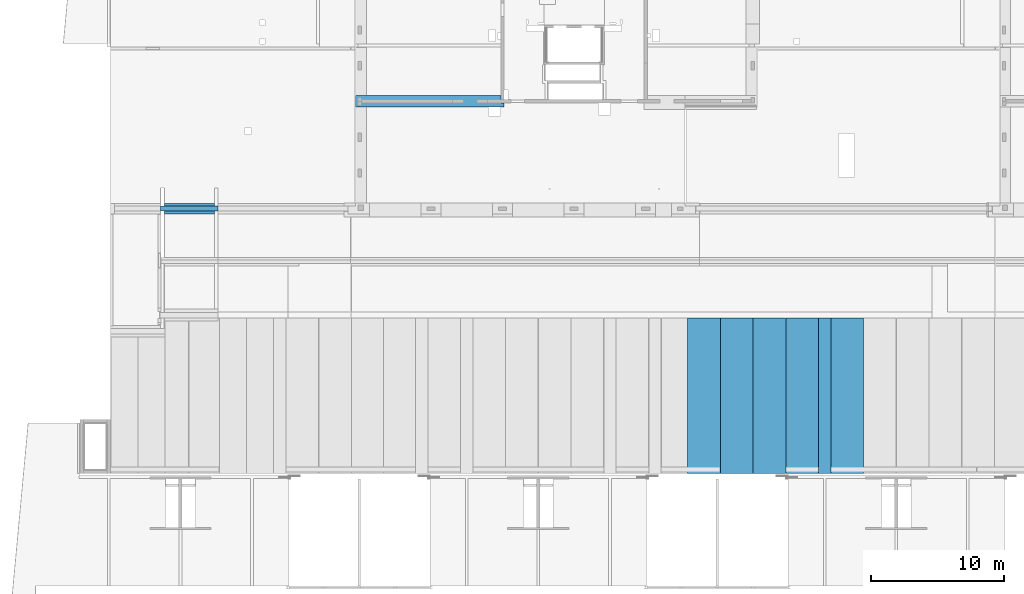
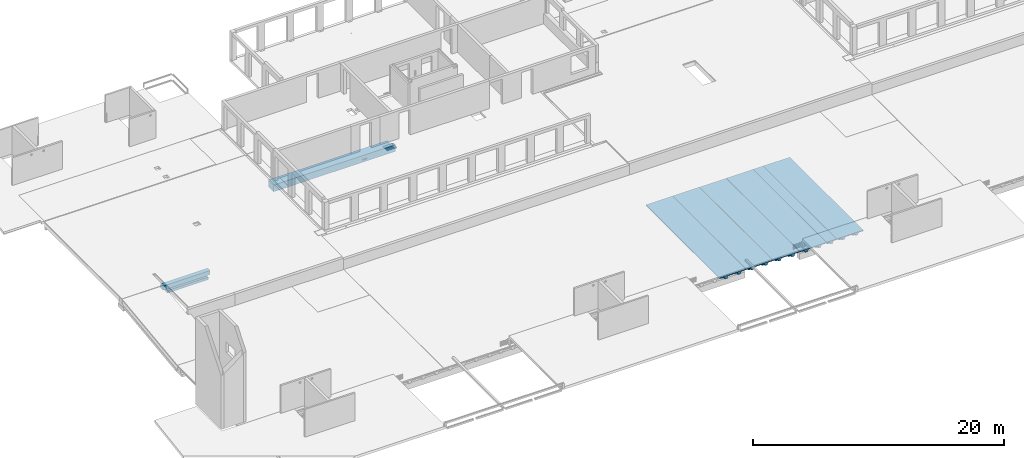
# One storey, part 28 of 36: 8 beams.
"""IFC2X3 building model written with IfcOpenShell, lengths in millimetres."""

import ifcopenshell
import ifcopenshell.guid

model = None  # the IFC model being written
_history = None  # IfcOwnerHistory: only IFC2X3 demands one
_inside = {}  # id of a spatial element -> (the spatial element, [elements in it])
_under = {}  # id of a project, library or spatial element -> (it, [spatial elements below it])
_declared = {}  # id of a project -> (the project, [libraries it declares])
_typed = {}  # id of a type object -> (the type object, [elements of that type])
_made_of = {}  # id of a material, layer set ... -> (it, [elements and type objects made of it])


def new_model(schema):
    """Start an empty IFC model of exactly this schema.

    Asked for "IFC4X3", IfcOpenShell would pick the latest addendum, in which some entities
    have other attributes; the version numbers below select the first issue.
    IFC2X3 requires an IfcOwnerHistory on every rooted entity: one is made here for all.
    """
    global model, _history
    if schema == "IFC4X3":
        model = ifcopenshell.file(schema_version=(4, 3, 0, 0))
    else:
        model = ifcopenshell.file(schema=schema)
    _inside.clear()
    _under.clear()
    _declared.clear()
    _typed.clear()
    _made_of.clear()
    _history = None
    if model.schema == "IFC2X3":
        org = make("IfcOrganization", Name="unknown")
        user = make(
            "IfcPersonAndOrganization",
            ThePerson=make("IfcPerson", FamilyName="unknown"),
            TheOrganization=org,
        )
        app = make(
            "IfcApplication",
            ApplicationDeveloper=org,
            Version="unknown",
            ApplicationFullName="unknown",
            ApplicationIdentifier="unknown",
        )
        _history = make(
            "IfcOwnerHistory",
            OwningUser=user,
            OwningApplication=app,
            ChangeAction="ADDED",
            CreationDate=0,
        )
    return model


def make(cls, **values):
    """One entity of the class cls with the attributes given. An attribute that is None is left unset."""
    return model.create_entity(
        cls, **{name: value for name, value in values.items() if value is not None}
    )


def entity(cls, *values):
    """Any entity or typed value of the class cls, its attributes in the order of the schema. None: left unset."""
    e = model.create_entity(cls)
    for i, value in enumerate(values):
        if value is not None:
            e[i] = value
    return e


def rooted(cls, **values):
    """An entity with a GlobalId (a new one), such as an element, a storey or a relation."""
    return make(cls, GlobalId=ifcopenshell.guid.new(), OwnerHistory=_history, **values)


def si_unit(unit_type, name, prefix=None):
    """IfcSIUnit, for example si_unit("LENGTHUNIT", "METRE", prefix="MILLI")."""
    return make("IfcSIUnit", UnitType=unit_type, Prefix=prefix, Name=name)


def converted_unit(unit_type, name, factor, base, dimensions=None, offset=None):
    """IfcConversionBasedUnit, such as the inch: factor (a typed value) times the base unit."""
    return make(
        "IfcConversionBasedUnit"
        if offset is None
        else "IfcConversionBasedUnitWithOffset",
        ConversionOffset=offset,
        Dimensions=None
        if dimensions is None
        else entity("IfcDimensionalExponents", *dimensions),
        UnitType=unit_type,
        Name=name,
        ConversionFactor=make(
            "IfcMeasureWithUnit", ValueComponent=factor, UnitComponent=base
        ),
    )


def derived_unit(unit_type, elements):
    """IfcDerivedUnit: a product of units, each with its exponent."""
    return make(
        "IfcDerivedUnit",
        Elements=[
            make("IfcDerivedUnitElement", Unit=unit, Exponent=power)
            for unit, power in elements
        ],
        UnitType=unit_type,
    )


def assignment(units):
    """IfcUnitAssignment: the units of a project."""
    return None if units is None else make("IfcUnitAssignment", Units=units)


def point(xyz):
    """IfcCartesianPoint."""
    return None if xyz is None else make("IfcCartesianPoint", Coordinates=xyz)


def direction(xyz):
    """IfcDirection."""
    return None if xyz is None else make("IfcDirection", DirectionRatios=xyz)


def frame(location, z_axis=None, x_axis=None):
    """IfcAxis2Placement3D, a coordinate frame: its origin and axes. An axis left out is left unset."""
    return make(
        "IfcAxis2Placement3D",
        Location=point(location),
        Axis=direction(z_axis),
        RefDirection=direction(x_axis),
    )


def origin():
    """The frame at (0, 0, 0) with its axes left unset."""
    return frame((0.0, 0.0, 0.0))


def place(relative_to, where):
    """IfcLocalPlacement: puts the frame where relative to a parent placement (None: the world)."""
    return make(
        "IfcLocalPlacement", PlacementRelTo=relative_to, RelativePlacement=where
    )


def context(
    kind, dimensions, precision=None, world=None, true_north=None, identifier=None
):
    """IfcGeometricRepresentationContext, for example the 3D "Model" context."""
    return make(
        "IfcGeometricRepresentationContext",
        ContextIdentifier=identifier,
        ContextType=kind,
        CoordinateSpaceDimension=dimensions,
        Precision=precision,
        WorldCoordinateSystem=world,
        TrueNorth=true_north,
    )


def subcontext(parent, identifier, kind, view, scale=None):
    """IfcGeometricRepresentationSubContext, for example "Body" below "Model"."""
    return make(
        "IfcGeometricRepresentationSubContext",
        ContextIdentifier=identifier,
        ContextType=kind,
        ParentContext=parent,
        TargetScale=scale,
        TargetView=view,
    )


def project(units=None, contexts=None):
    """IfcProject with its units and contexts."""
    return rooted(
        "IfcProject",
        Name="project",
        RepresentationContexts=contexts,
        UnitsInContext=assignment(units),
    )


def spatial(cls, under=None, at=None, **own):
    """A site, building, storey or space (cls), placed at a placement, below another one or the project."""
    s = rooted(cls, ObjectPlacement=at, **own)
    if under is not None:
        _under.setdefault(under.id(), (under, []))[1].append(s)
    return s


def faces_of(points, faces, orient=None, outer=None):
    """IfcFace entities. A face is a list of loops; a loop is a list of indices into points, from 0.

    orient and outer hold one flag for each loop. By default every Orientation is true, the
    first loop of a face is its IfcFaceOuterBound and the others are IfcFaceBound.
    """
    made = []
    for i, loops in enumerate(faces):
        bounds = []
        for j, loop in enumerate(loops):
            is_outer = j == 0 if outer is None else outer[i][j]
            bounds.append(
                make(
                    "IfcFaceOuterBound" if is_outer else "IfcFaceBound",
                    Bound=make("IfcPolyLoop", Polygon=[points[k] for k in loop]),
                    Orientation=True if orient is None else orient[i][j],
                )
            )
        made.append(make("IfcFace", Bounds=bounds))
    return made


def faceted_brep(points, faces, orient=None, outer=None, voids=None):
    """IfcFacetedBrep: a solid bounded by flat faces; with voids (closed shells), ...WithVoids."""
    shared = [point(p) for p in points]
    hull = make("IfcClosedShell", CfsFaces=faces_of(shared, faces, orient, outer))
    if voids is None:
        return make("IfcFacetedBrep", Outer=hull)
    return make(
        "IfcFacetedBrepWithVoids",
        Outer=hull,
        Voids=[
            make(cls, CfsFaces=faces_of(shared, fs, o, b)) for cls, fs, o, b in voids
        ],
    )


def shape(context_of_items, identifier, shape_type, items):
    """IfcShapeRepresentation: the items that make up one representation, for example the "Body"."""
    return make(
        "IfcShapeRepresentation",
        ContextOfItems=context_of_items,
        RepresentationIdentifier=identifier,
        RepresentationType=shape_type,
        Items=items,
    )


def material(Name=None, Category=None):
    """IfcMaterial."""
    return make("IfcMaterial", Name=Name, Category=Category)


def made_of(thing, what):
    """Note that an element or type object is made of a material, layer set ...; save() writes the relation."""
    if what is not None:
        _made_of.setdefault(what.id(), (what, []))[1].append(thing)
    return thing


def type_object(cls, material=None, **own):
    """A type object (cls), such as IfcWallType, which elements share."""
    return made_of(rooted(cls, **own), material)


def element(
    cls,
    number,
    at=None,
    inside=None,
    cuts=None,
    type_object=None,
    material=None,
    context=None,
    identifier="Body",
    shape_type=None,
    held_by="IfcProductDefinitionShape",
    body=None,
    shapes=None,
    **own,
):
    """One element of the class cls, such as IfcWall. Its Tag is "e" and its number.

    at: its placement. inside: the storey or other place that contains it. cuts: it is an
    opening in that element (IfcRelVoidsElement). A single representation is given by context,
    identifier, shape_type and body (its items); several are given by shapes. held_by: the class
    of the entity that holds the representations. save() writes the other relations.
    """
    e = rooted(cls, Tag="e%d" % number, ObjectPlacement=at, **own)
    if body is not None:
        shapes = [shape(context, identifier, shape_type, body)]
    if shapes is not None:
        e.Representation = make(held_by, Representations=shapes)
    if inside is not None:
        _inside.setdefault(inside.id(), (inside, []))[1].append(e)
    if cuts is not None:
        rooted(
            "IfcRelVoidsElement", RelatingBuildingElement=cuts, RelatedOpeningElement=e
        )
    if type_object is not None:
        _typed.setdefault(type_object.id(), (type_object, []))[1].append(e)
    return made_of(e, material)


def aggregate(whole, parts):
    """IfcRelAggregates: a whole, such as a stair, and the parts it consists of."""
    return rooted("IfcRelAggregates", RelatingObject=whole, RelatedObjects=parts)


def save(model, path):
    """Write the relations noted so far, then the file.

    IfcRelAggregates (storeys below a building ...), IfcRelContainedInSpatialStructure (elements
    in a storey), IfcRelDefinesByType, IfcRelAssociatesMaterial and IfcRelDeclares: one each for
    every whole, place, type object, material and project.
    """
    for whole, parts in _under.values():
        aggregate(whole, parts)
    for where, things in _inside.values():
        rooted(
            "IfcRelContainedInSpatialStructure",
            RelatedElements=things,
            RelatingStructure=where,
        )
    for kind, things in _typed.values():
        rooted("IfcRelDefinesByType", RelatedObjects=things, RelatingType=kind)
    for what, things in _made_of.values():
        rooted("IfcRelAssociatesMaterial", RelatedObjects=things, RelatingMaterial=what)
    for by, libraries in _declared.values():
        rooted("IfcRelDeclares", RelatingContext=by, RelatedDefinitions=libraries)
    model.write(path)


model = new_model("IFC2X3")

# Units and contexts
model_context = context("Model", 3, precision=0.01, world=origin(), true_north=direction((6.12303176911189e-17, 1.0)))
body_context = subcontext(model_context, "Body", "Model", "MODEL_VIEW")
ifc_project = project(units=[si_unit("LENGTHUNIT", "METRE", prefix="MILLI"), si_unit("AREAUNIT", "SQUARE_METRE"), si_unit("VOLUMEUNIT", "CUBIC_METRE"), converted_unit("PLANEANGLEUNIT", "DEGREE", entity("IfcRatioMeasure", 0.0174532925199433), si_unit("PLANEANGLEUNIT", "RADIAN"), dimensions=[0, 0, 0, 0, 0, 0, 0]), si_unit("MASSUNIT", "GRAM", prefix="KILO"), derived_unit("MASSDENSITYUNIT", [(si_unit("MASSUNIT", "GRAM", prefix="KILO"), 1), (si_unit("LENGTHUNIT", "METRE"), -3)]), si_unit("TIMEUNIT", "SECOND"), si_unit("FREQUENCYUNIT", "HERTZ"), si_unit("THERMODYNAMICTEMPERATUREUNIT", "DEGREE_CELSIUS"), derived_unit("THERMALTRANSMITTANCEUNIT", [(si_unit("MASSUNIT", "GRAM", prefix="KILO"), 1), (si_unit("THERMODYNAMICTEMPERATUREUNIT", "KELVIN"), -1), (si_unit("TIMEUNIT", "SECOND"), -3)]), derived_unit("VOLUMETRICFLOWRATEUNIT", [(si_unit("LENGTHUNIT", "METRE"), 3), (si_unit("TIMEUNIT", "SECOND"), -1)]), si_unit("ELECTRICCURRENTUNIT", "AMPERE"), si_unit("ELECTRICVOLTAGEUNIT", "VOLT"), si_unit("POWERUNIT", "WATT"), si_unit("FORCEUNIT", "NEWTON", prefix="KILO"), si_unit("ILLUMINANCEUNIT", "LUX"), si_unit("LUMINOUSFLUXUNIT", "LUMEN"), si_unit("LUMINOUSINTENSITYUNIT", "CANDELA"), derived_unit("USERDEFINED", [(si_unit("MASSUNIT", "GRAM", prefix="KILO"), -1), (si_unit("LENGTHUNIT", "METRE"), -2), (si_unit("TIMEUNIT", "SECOND"), 3), (si_unit("LUMINOUSFLUXUNIT", "LUMEN"), 1)]), derived_unit("LINEARVELOCITYUNIT", [(si_unit("LENGTHUNIT", "METRE"), 1), (si_unit("TIMEUNIT", "SECOND"), -1)]), si_unit("PRESSUREUNIT", "PASCAL"), derived_unit("USERDEFINED", [(si_unit("LENGTHUNIT", "METRE"), -2), (si_unit("MASSUNIT", "GRAM", prefix="KILO"), 1), (si_unit("TIMEUNIT", "SECOND"), -2)])], contexts=[model_context])

# Site, building, storey
site_placement = place(None, origin())
site = spatial("IfcSite", under=ifc_project, at=site_placement, Name="Default", CompositionType="ELEMENT")
building_placement = place(site_placement, origin())
building = spatial("IfcBuilding", under=site, at=building_placement, Name="niet gebruiken", CompositionType="ELEMENT")
storey_placement = place(building_placement, frame((0.0, 0.0, 12600.0)))
storey = spatial("IfcBuildingStorey", under=building, at=storey_placement, Name="04 vierde verdieping", CompositionType="ELEMENT", Elevation=12600.0)

# Beams
ifc_material_1 = material(Name="NLRS_f2_beton prefab")
beam_type_1 = type_object("IfcBeamType", Name="NLRS_28.11_SF_WPB_prefabbeton balk dubbele sponning_gen:800x660/200x410/200x410", PredefinedType="BEAM")
beam_1_placement = place(storey_placement, frame((12005.0, 28481.0, -900.0)))
element("IfcBeam", 1, at=beam_1_placement, inside=storey, type_object=beam_type_1, material=ifc_material_1, Name="NLRS_28.11_SF_WPB_prefabbeton balk dubbele sponning_gen:800x660/200x410/200x410", ObjectType="NLRS_28.11_SF_WPB_prefabbeton balk dubbele sponning_gen:800x660/200x410/200x410", context=body_context, shape_type="Brep", body=[
    faceted_brep([(0.0, 200.0, 660.0), (0.0, 600.0, 660.0), (0.0, 600.0, 270.0), (0.0, 200.0, 270.0), (290.0, 0.0, 250.0), (290.0, 0.0, 0.0), (4050.0, 0.0, 0.0), (4050.0, 0.0, 250.0), (4340.0, 600.0, 660.0), (4340.0, 200.0, 660.0), (4340.0, 200.0, 270.0), (4340.0, 600.0, 270.0), (4050.0, 600.0, 270.0), (4050.0, 600.0, 250.0), (290.0, 600.0, 250.0), (290.0, 600.0, 270.0), (290.0, 800.0, 250.0), (4050.0, 800.0, 250.0), (290.0, 200.0, 270.0), (290.0, 200.0, 250.0), (4050.0, 200.0, 250.0), (4050.0, 200.0, 270.0), (290.0, 800.0, 0.0), (4050.0, 800.0, 0.0)], [[[0, 1, 2, 3]], [[4, 5, 6, 7]], [[8, 9, 10, 11]], [[1, 0, 9, 8]], [[1, 8, 11, 12, 13, 14, 15, 2]], [[16, 14, 13, 17]], [[9, 0, 3, 18, 19, 20, 21, 10]], [[19, 4, 7, 20]], [[22, 16, 17, 23]], [[5, 22, 23, 6]], [[18, 15, 14, 16, 22, 5, 4, 19]], [[15, 18, 3, 2]], [[12, 21, 20, 7, 6, 23, 17, 13]], [[21, 12, 11, 10]]]),
])
ifc_material_2 = material(Name="NLRS_f2_beton ihwg")
beam_type_2 = type_object("IfcBeamType", Name="NLRS_28.11_SF_WPB_betonbalk ihwg recht_gen:850x650", PredefinedType="BEAM")
beam_2_placement = place(storey_placement, frame((26725.0, 36556.0, -990.0)))
element("IfcBeam", 2, at=beam_2_placement, inside=storey, type_object=beam_type_2, material=ifc_material_2, Name="NLRS_28.11_SF_WPB_betonbalk ihwg recht_gen:850x650", ObjectType="NLRS_28.11_SF_WPB_betonbalk ihwg recht_gen:850x650", context=body_context, shape_type="Brep", body=[
    faceted_brep([(0.0, 0.0, 650.0), (0.0, 850.0, 650.0), (0.0, 850.0, 90.0), (0.0, 850.0, 0.0), (0.0, 0.0, 0.0), (0.0, 0.0, 90.0), (800.0, 0.0, 650.0), (10020.0, 0.0, 650.0), (10940.0, 0.0, 650.0), (11200.0, 0.0, 650.0), (11200.0, 300.0, 650.0), (10950.0, 300.0, 650.0), (10950.0, 550.0, 650.0), (10950.0, 850.0, 650.0), (800.0, 850.0, 650.0), (11200.0, 0.0, 0.0), (8155.0, 0.0, 300.0), (8595.0, 0.0, 300.0), (8595.0, 0.0, 200.0), (8155.0, 0.0, 200.0), (10950.0, 850.0, 0.0), (10950.0, 300.0, 0.0), (11200.0, 300.0, 0.0), (8155.0, 847.0, 300.0), (8595.0, 847.0, 300.0), (8595.0, 847.0, 200.0), (8155.0, 847.0, 200.0)], [[[0, 1, 2, 3, 4, 5]], [[1, 0, 6, 7, 8, 9, 10, 11, 12, 13, 14]], [[0, 5, 4, 15, 9, 8, 7, 6], [16, 17, 18, 19]], [[4, 3, 20, 21, 22, 15]], [[3, 2, 1, 14, 13, 20]], [[11, 10, 22, 21]], [[11, 21, 20, 13, 12]], [[9, 15, 22, 10]], [[23, 24, 17, 16]], [[25, 26, 19, 18]], [[24, 23, 26, 25]], [[26, 23, 16, 19]], [[24, 25, 18, 17]]]),
])
beam_type_3 = type_object("IfcBeamType", Name="NLRS_28.11_SF_WPB_tt-plaatvloer Holcon 102B_gen:TT-plaat, b=2460", PredefinedType="BEAM")
beam_3_placement = place(storey_placement, frame((62571.7666806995, 8896.0, -1970.0), z_axis=(0.0, 0.0, 1.0), x_axis=(0.0, -1.0, 0.0)))
element("IfcBeam", 3, at=beam_3_placement, inside=storey, type_object=beam_type_3, material=ifc_material_1, Name="NLRS_28.11_SF_WPB_tt-plaatvloer Holcon 102B_gen:TT-plaat, b=2460", ObjectType="NLRS_28.11_SF_WPB_tt-plaatvloer Holcon 102B_gen:TT-plaat, b=2460", context=body_context, shape_type="Brep", body=[
    faceted_brep([(-11730.0, 0.0, 610.0), (-11730.0, 0.0, 529.999995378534), (0.0, 0.0, 529.999995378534), (0.0, 0.0, 610.0), (-520.0, 733.513622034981, 320.0), (-520.0, 493.468888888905, 320.0), (-520.0, 518.500000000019, 0.0), (-520.0, 708.482510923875, 0.0), (-11480.0, 501.291111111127, 220.0), (-11480.0, 725.691399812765, 220.0), (-11480.0, 708.482510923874, 0.0), (-11480.0, 518.500000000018, 0.0), (-11730.0, 744.000076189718, 454.059783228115), (-11730.0, 819.940288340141, 529.999995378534), (0.0, 819.940288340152, 529.999995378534), (0.0, 744.000076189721, 454.059783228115), (-11730.0, 1971.01904939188, 454.078756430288), (-11730.0, 2046.94028834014, 529.999995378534), (0.0, 2046.94028834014, 529.999995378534), (0.0, 1971.01904939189, 454.078756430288), (-11730.0, 1634.05971165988, 529.999995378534), (-11730.0, 1709.9999238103, 454.059783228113), (0.0, 1709.99992381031, 454.059783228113), (0.0, 1634.05971165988, 529.999995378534), (-11730.0, 2454.0, 610.0), (-11730.0, 2454.0, 529.999995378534), (-11730.0, 1952.7088888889, 220.0), (-11730.0, 1728.30860018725, 220.0), (-11730.0, 725.691399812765, 220.0), (-11730.0, 501.291111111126, 220.0), (-11730.0, 482.980950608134, 454.078756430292), (-11730.0, 407.059711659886, 529.999995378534), (0.0, 407.059711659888, 529.999995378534), (0.0, 482.980950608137, 454.078756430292), (0.0, 493.468888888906, 320.0), (0.0, 733.513622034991, 320.0), (0.0, 1720.48637796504, 320.0), (0.0, 1960.53111111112, 320.0), (0.0, 2454.0, 529.999995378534), (0.0, 2454.0, 610.0), (-520.0, 1935.50000000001, 0.0), (-520.0, 1745.51748907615, 0.0), (-11480.0, 1745.51748907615, 0.0), (-11480.0, 1935.50000000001, 0.0), (-520.0, 1960.53111111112, 320.0), (-11480.0, 1952.7088888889, 220.0), (-11480.0, 1728.30860018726, 220.0), (-520.0, 1720.48637796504, 320.0)], [[[0, 1, 2, 3]], [[4, 5, 6, 7]], [[8, 9, 10, 11]], [[12, 13, 14, 15]], [[16, 17, 18, 19]], [[20, 21, 22, 23]], [[0, 24, 25, 17, 16, 26, 27, 21, 20, 13, 12, 28, 29, 30, 31, 1]], [[3, 2, 32, 33, 34, 35, 15, 14, 23, 22, 36, 37, 19, 18, 38, 39]], [[1, 31, 32, 2]], [[24, 0, 3, 39]], [[25, 24, 39, 38]], [[17, 25, 38, 18]], [[13, 20, 23, 14]], [[40, 41, 42, 43]], [[16, 19, 37, 44, 40, 43, 45, 26]], [[22, 21, 27, 46, 42, 41, 47, 36]], [[12, 15, 35, 4, 7, 10, 9, 28]], [[7, 6, 11, 10]], [[33, 30, 29, 8, 11, 6, 5, 34]], [[5, 4, 35, 34]], [[9, 8, 29, 28]], [[31, 30, 33, 32]], [[46, 45, 43, 42]], [[44, 47, 41, 40]], [[45, 46, 27, 26]], [[47, 44, 37, 36]]]),
])
beam_4_placement = place(storey_placement, frame((59173.0, 8896.0, -1970.0), z_axis=(0.0, 0.0, 1.0), x_axis=(0.0, -1.0, 0.0)))
element("IfcBeam", 4, at=beam_4_placement, inside=storey, type_object=beam_type_3, material=ifc_material_1, Name="NLRS_28.11_SF_WPB_tt-plaatvloer Holcon 102B_gen:TT-plaat, b=2460", ObjectType="NLRS_28.11_SF_WPB_tt-plaatvloer Holcon 102B_gen:TT-plaat, b=2460", context=body_context, shape_type="Brep", body=[
    faceted_brep([(-11730.0, 0.0, 610.0), (-11730.0, 0.0, 529.999995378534), (0.0, 0.0, 529.999995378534), (0.0, 0.0, 610.0), (-520.0, 733.51362203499, 320.0), (-520.0, 493.468888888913, 320.0), (-520.0, 518.500000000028, 0.0), (-520.0, 708.482510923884, 0.0), (-11480.0, 501.291111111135, 220.0), (-11480.0, 725.691399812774, 220.0), (-11480.0, 708.482510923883, 0.0), (-11480.0, 518.500000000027, 0.0), (-11730.0, 744.000076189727, 454.059783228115), (-11730.0, 819.94028834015, 529.999995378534), (0.0, 819.940288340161, 529.999995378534), (0.0, 744.000076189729, 454.059783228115), (-11730.0, 1971.01904939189, 454.078756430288), (-11730.0, 2046.94028834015, 529.999995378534), (0.0, 2046.94028834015, 529.999995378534), (0.0, 1971.01904939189, 454.078756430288), (-11730.0, 1634.05971165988, 529.999995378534), (-11730.0, 1709.99992381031, 454.059783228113), (0.0, 1709.99992381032, 454.059783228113), (0.0, 1634.05971165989, 529.999995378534), (-11730.0, 2454.0, 610.0), (-11730.0, 2454.0, 529.999995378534), (-11730.0, 1952.70888888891, 220.0), (-11730.0, 1728.30860018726, 220.0), (-11730.0, 725.691399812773, 220.0), (-11730.0, 501.291111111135, 220.0), (-11730.0, 482.980950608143, 454.078756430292), (-11730.0, 407.059711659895, 529.999995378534), (0.0, 407.059711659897, 529.999995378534), (0.0, 482.980950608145, 454.078756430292), (0.0, 493.468888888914, 320.0), (0.0, 733.513622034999, 320.0), (0.0, 1720.48637796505, 320.0), (0.0, 1960.53111111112, 320.0), (0.0, 2454.0, 529.999995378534), (0.0, 2454.0, 610.0), (-520.0, 1935.50000000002, 0.0), (-520.0, 1745.51748907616, 0.0), (-11480.0, 1745.51748907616, 0.0), (-11480.0, 1935.50000000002, 0.0), (-520.0, 1960.53111111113, 320.0), (-11480.0, 1952.70888888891, 220.0), (-11480.0, 1728.30860018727, 220.0), (-520.0, 1720.48637796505, 320.0)], [[[0, 1, 2, 3]], [[4, 5, 6, 7]], [[8, 9, 10, 11]], [[12, 13, 14, 15]], [[16, 17, 18, 19]], [[20, 21, 22, 23]], [[0, 24, 25, 17, 16, 26, 27, 21, 20, 13, 12, 28, 29, 30, 31, 1]], [[3, 2, 32, 33, 34, 35, 15, 14, 23, 22, 36, 37, 19, 18, 38, 39]], [[1, 31, 32, 2]], [[24, 0, 3, 39]], [[25, 24, 39, 38]], [[17, 25, 38, 18]], [[13, 20, 23, 14]], [[40, 41, 42, 43]], [[16, 19, 37, 44, 40, 43, 45, 26]], [[22, 21, 27, 46, 42, 41, 47, 36]], [[12, 15, 35, 4, 7, 10, 9, 28]], [[7, 6, 11, 10]], [[33, 30, 29, 8, 11, 6, 5, 34]], [[5, 4, 35, 34]], [[9, 8, 29, 28]], [[31, 30, 33, 32]], [[44, 47, 41, 40]], [[46, 45, 43, 42]], [[47, 44, 37, 36]], [[45, 46, 27, 26]]]),
])
beam_5_placement = place(storey_placement, frame((56706.0466835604, 8896.0, -1970.0), z_axis=(0.0, 0.0, 1.0), x_axis=(0.0, -1.0, 0.0)))
element("IfcBeam", 5, at=beam_5_placement, inside=storey, type_object=beam_type_3, material=ifc_material_1, Name="NLRS_28.11_SF_WPB_tt-plaatvloer Holcon 102B_gen:TT-plaat, b=2460", ObjectType="NLRS_28.11_SF_WPB_tt-plaatvloer Holcon 102B_gen:TT-plaat, b=2460", context=body_context, shape_type="Brep", body=[
    faceted_brep([(-11730.0, 0.0, 610.0), (-11730.0, 0.0, 529.999995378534), (0.0, 0.0, 529.999995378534), (0.0, 0.0, 610.0), (-520.0, 733.513622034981, 320.0), (-520.0, 493.468888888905, 320.0), (-520.0, 518.500000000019, 0.0), (-520.0, 708.482510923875, 0.0), (-11480.0, 501.291111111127, 220.0), (-11480.0, 725.691399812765, 220.0), (-11480.0, 708.482510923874, 0.0), (-11480.0, 518.500000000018, 0.0), (-11730.0, 744.000076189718, 454.059783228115), (-11730.0, 819.940288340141, 529.999995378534), (0.0, 819.940288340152, 529.999995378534), (0.0, 744.000076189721, 454.059783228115), (-11730.0, 1971.01904939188, 454.078756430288), (-11730.0, 2046.94028834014, 529.999995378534), (0.0, 2046.94028834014, 529.999995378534), (0.0, 1971.01904939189, 454.078756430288), (-11730.0, 1634.05971165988, 529.999995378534), (-11730.0, 1709.9999238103, 454.059783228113), (0.0, 1709.99992381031, 454.059783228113), (0.0, 1634.05971165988, 529.999995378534), (-11730.0, 2454.0, 610.0), (-11730.0, 2454.0, 529.999995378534), (-11730.0, 1952.7088888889, 220.0), (-11730.0, 1728.30860018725, 220.0), (-11730.0, 725.691399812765, 220.0), (-11730.0, 501.291111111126, 220.0), (-11730.0, 482.980950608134, 454.078756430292), (-11730.0, 407.059711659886, 529.999995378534), (0.0, 407.059711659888, 529.999995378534), (0.0, 482.980950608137, 454.078756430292), (0.0, 493.468888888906, 320.0), (0.0, 733.513622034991, 320.0), (0.0, 1720.48637796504, 320.0), (0.0, 1960.53111111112, 320.0), (0.0, 2454.0, 529.999995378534), (0.0, 2454.0, 610.0), (-520.0, 1935.50000000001, 0.0), (-520.0, 1745.51748907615, 0.0), (-11480.0, 1745.51748907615, 0.0), (-11480.0, 1935.50000000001, 0.0), (-520.0, 1960.53111111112, 320.0), (-11480.0, 1952.7088888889, 220.0), (-11480.0, 1728.30860018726, 220.0), (-520.0, 1720.48637796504, 320.0)], [[[0, 1, 2, 3]], [[4, 5, 6, 7]], [[8, 9, 10, 11]], [[12, 13, 14, 15]], [[16, 17, 18, 19]], [[20, 21, 22, 23]], [[0, 24, 25, 17, 16, 26, 27, 21, 20, 13, 12, 28, 29, 30, 31, 1]], [[3, 2, 32, 33, 34, 35, 15, 14, 23, 22, 36, 37, 19, 18, 38, 39]], [[1, 31, 32, 2]], [[24, 0, 3, 39]], [[25, 24, 39, 38]], [[17, 25, 38, 18]], [[13, 20, 23, 14]], [[40, 41, 42, 43]], [[16, 19, 37, 44, 40, 43, 45, 26]], [[22, 21, 27, 46, 42, 41, 47, 36]], [[12, 15, 35, 4, 7, 10, 9, 28]], [[7, 6, 11, 10]], [[33, 30, 29, 8, 11, 6, 5, 34]], [[5, 4, 35, 34]], [[9, 8, 29, 28]], [[31, 30, 33, 32]], [[47, 44, 37, 36]], [[46, 45, 43, 42]], [[44, 47, 41, 40]], [[45, 46, 27, 26]]]),
])
beam_6_placement = place(storey_placement, frame((54239.3472837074, 8896.0, -1970.0), z_axis=(0.0, 0.0, 1.0), x_axis=(0.0, -1.0, 0.0)))
element("IfcBeam", 6, at=beam_6_placement, inside=storey, type_object=beam_type_3, material=ifc_material_1, Name="NLRS_28.11_SF_WPB_tt-plaatvloer Holcon 102B_gen:TT-plaat, b=2460", ObjectType="NLRS_28.11_SF_WPB_tt-plaatvloer Holcon 102B_gen:TT-plaat, b=2460", context=body_context, shape_type="Brep", body=[
    faceted_brep([(-11730.0, 0.0, 610.0), (-11730.0, 0.0, 529.999995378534), (0.0, 0.0, 529.999995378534), (0.0, 0.0, 610.0), (-520.0, 733.513622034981, 320.0), (-520.0, 493.468888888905, 320.0), (-520.0, 518.500000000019, 0.0), (-520.0, 708.482510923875, 0.0), (-11480.0, 501.291111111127, 220.0), (-11480.0, 725.691399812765, 220.0), (-11480.0, 708.482510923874, 0.0), (-11480.0, 518.500000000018, 0.0), (-11730.0, 744.000076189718, 454.059783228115), (-11730.0, 819.940288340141, 529.999995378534), (0.0, 819.940288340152, 529.999995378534), (0.0, 744.000076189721, 454.059783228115), (-11730.0, 1971.01904939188, 454.078756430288), (-11730.0, 2046.94028834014, 529.999995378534), (0.0, 2046.94028834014, 529.999995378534), (0.0, 1971.01904939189, 454.078756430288), (-11730.0, 1634.05971165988, 529.999995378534), (-11730.0, 1709.9999238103, 454.059783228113), (0.0, 1709.99992381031, 454.059783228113), (0.0, 1634.05971165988, 529.999995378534), (-11730.0, 2454.0, 610.0), (-11730.0, 2454.0, 529.999995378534), (-11730.0, 1952.7088888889, 220.0), (-11730.0, 1728.30860018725, 220.0), (-11730.0, 725.691399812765, 220.0), (-11730.0, 501.291111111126, 220.0), (-11730.0, 482.980950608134, 454.078756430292), (-11730.0, 407.059711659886, 529.999995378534), (0.0, 407.059711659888, 529.999995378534), (0.0, 482.980950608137, 454.078756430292), (0.0, 493.468888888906, 320.0), (0.0, 733.513622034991, 320.0), (0.0, 1720.48637796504, 320.0), (0.0, 1960.53111111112, 320.0), (0.0, 2454.0, 529.999995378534), (0.0, 2454.0, 610.0), (-520.0, 1935.50000000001, 0.0), (-520.0, 1745.51748907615, 0.0), (-11480.0, 1745.51748907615, 0.0), (-11480.0, 1935.50000000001, 0.0), (-520.0, 1960.53111111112, 320.0), (-11480.0, 1952.7088888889, 220.0), (-11480.0, 1728.30860018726, 220.0), (-520.0, 1720.48637796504, 320.0)], [[[0, 1, 2, 3]], [[4, 5, 6, 7]], [[8, 9, 10, 11]], [[12, 13, 14, 15]], [[16, 17, 18, 19]], [[20, 21, 22, 23]], [[0, 24, 25, 17, 16, 26, 27, 21, 20, 13, 12, 28, 29, 30, 31, 1]], [[3, 2, 32, 33, 34, 35, 15, 14, 23, 22, 36, 37, 19, 18, 38, 39]], [[1, 31, 32, 2]], [[24, 0, 3, 39]], [[25, 24, 39, 38]], [[17, 25, 38, 18]], [[13, 20, 23, 14]], [[40, 41, 42, 43]], [[16, 19, 37, 44, 40, 43, 45, 26]], [[22, 21, 27, 46, 42, 41, 47, 36]], [[12, 15, 35, 4, 7, 10, 9, 28]], [[7, 6, 11, 10]], [[33, 30, 29, 8, 11, 6, 5, 34]], [[5, 4, 35, 34]], [[9, 8, 29, 28]], [[31, 30, 33, 32]], [[44, 47, 41, 40]], [[46, 45, 43, 42]], [[47, 44, 37, 36]], [[45, 46, 27, 26]]]),
])
beam_7_placement = place(storey_placement, frame((51772.1973899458, 8896.0, -1970.0), z_axis=(0.0, 0.0, 1.0), x_axis=(0.0, -1.0, 0.0)))
element("IfcBeam", 7, at=beam_7_placement, inside=storey, type_object=beam_type_3, material=ifc_material_1, Name="NLRS_28.11_SF_WPB_tt-plaatvloer Holcon 102B_gen:TT-plaat, b=2460", ObjectType="NLRS_28.11_SF_WPB_tt-plaatvloer Holcon 102B_gen:TT-plaat, b=2460", context=body_context, shape_type="Brep", body=[
    faceted_brep([(-11730.0, 0.0, 610.0), (-11730.0, 0.0, 529.999995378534), (0.0, 0.0, 529.999995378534), (0.0, 0.0, 610.0), (-520.0, 733.513622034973, 320.0), (-520.0, 493.468888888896, 320.0), (-520.0, 518.500000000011, 0.0), (-520.0, 708.482510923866, 0.0), (-11480.0, 501.291111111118, 220.0), (-11480.0, 725.691399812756, 220.0), (-11480.0, 708.482510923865, 0.0), (-11480.0, 518.50000000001, 0.0), (-11730.0, 744.000076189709, 454.059783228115), (-11730.0, 819.940288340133, 529.999995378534), (0.0, 819.940288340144, 529.999995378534), (0.0, 744.000076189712, 454.059783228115), (-11730.0, 1971.01904939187, 454.078756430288), (-11730.0, 2046.94028834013, 529.999995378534), (0.0, 2046.94028834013, 529.999995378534), (0.0, 1971.01904939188, 454.078756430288), (-11730.0, 1634.05971165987, 529.999995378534), (-11730.0, 1709.99992381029, 454.059783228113), (0.0, 1709.9999238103, 454.059783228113), (0.0, 1634.05971165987, 529.999995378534), (-11730.0, 2454.0, 610.0), (-11730.0, 2454.0, 529.999995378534), (-11730.0, 1952.70888888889, 220.0), (-11730.0, 1728.30860018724, 220.0), (-11730.0, 725.691399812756, 220.0), (-11730.0, 501.291111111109, 220.0), (-11730.0, 482.980950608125, 454.078756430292), (-11730.0, 407.059711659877, 529.999995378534), (0.0, 407.05971165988, 529.999995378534), (0.0, 482.980950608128, 454.078756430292), (0.0, 493.468888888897, 320.0), (0.0, 733.513622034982, 320.0), (0.0, 1720.48637796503, 320.0), (0.0, 1960.53111111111, 320.0), (0.0, 2454.0, 529.999995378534), (0.0, 2454.0, 610.0), (-520.0, 1935.5, 0.0), (-520.0, 1745.51748907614, 0.0), (-11480.0, 1745.51748907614, 0.0), (-11480.0, 1935.5, 0.0), (-520.0, 1960.53111111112, 320.0), (-11480.0, 1952.70888888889, 220.0), (-11480.0, 1728.30860018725, 220.0), (-520.0, 1720.48637796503, 320.0)], [[[0, 1, 2, 3]], [[4, 5, 6, 7]], [[8, 9, 10, 11]], [[12, 13, 14, 15]], [[16, 17, 18, 19]], [[20, 21, 22, 23]], [[0, 24, 25, 17, 16, 26, 27, 21, 20, 13, 12, 28, 29, 30, 31, 1]], [[3, 2, 32, 33, 34, 35, 15, 14, 23, 22, 36, 37, 19, 18, 38, 39]], [[1, 31, 32, 2]], [[24, 0, 3, 39]], [[25, 24, 39, 38]], [[17, 25, 38, 18]], [[13, 20, 23, 14]], [[40, 41, 42, 43]], [[16, 19, 37, 44, 40, 43, 45, 26]], [[22, 21, 27, 46, 42, 41, 47, 36]], [[12, 15, 35, 4, 7, 10, 9, 28]], [[7, 6, 11, 10]], [[33, 30, 29, 8, 11, 6, 5, 34]], [[5, 4, 35, 34]], [[9, 8, 29, 28]], [[31, 30, 33, 32]], [[45, 46, 27, 26]], [[47, 44, 37, 36]], [[46, 45, 43, 42]], [[44, 47, 41, 40]]]),
])
beam_type_4 = type_object("IfcBeamType", Name="NLRS_28.11_SF_WPB_tt-plaatvloer Holcon 1 ligger_gen:TT-plaat 1 ligger b=930", PredefinedType="BEAM")
beam_8_placement = place(storey_placement, frame((61637.1837032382, 8896.0, -1970.0), z_axis=(0.0, 0.0, 1.0), x_axis=(0.0, -1.0, 0.0)))
element("IfcBeam", 8, at=beam_8_placement, inside=storey, type_object=beam_type_4, material=ifc_material_1, Name="NLRS_28.11_SF_WPB_tt-plaatvloer Holcon 1 ligger_gen:TT-plaat 1 ligger b=930", ObjectType="NLRS_28.11_SF_WPB_tt-plaatvloer Holcon 1 ligger_gen:TT-plaat 1 ligger b=930", context=body_context, shape_type="Brep", body=[
    faceted_brep([(-11730.0, 0.0, 610.0), (-11730.0, 924.0, 610.0), (-11730.0, 924.0, 529.999995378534), (-11730.0, 668.440288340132, 529.999995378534), (-11730.0, 592.519049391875, 454.078756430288), (-11730.0, 574.208888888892, 220.0), (-11730.0, 349.808600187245, 220.0), (-11730.0, 331.499923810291, 454.059783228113), (-11730.0, 255.55971165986, 529.999995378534), (-11730.0, 0.0, 529.999995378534), (0.0, 331.499923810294, 454.059783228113), (-11480.0, 349.808600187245, 220.0), (-11480.0, 367.017489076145, 0.0), (-520.0, 367.017489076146, 0.0), (-520.0, 341.986377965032, 320.0), (0.0, 341.986377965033, 320.0), (-11480.0, 574.208888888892, 220.0), (0.0, 592.519049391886, 454.078756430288), (0.0, 582.031111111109, 320.0), (-520.0, 582.031111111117, 320.0), (-520.0, 557.0, 0.0), (-11480.0, 557.0, 0.0), (0.0, 0.0, 610.0), (0.0, 0.0, 529.999995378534), (0.0, 255.559711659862, 529.999995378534), (0.0, 668.440288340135, 529.999995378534), (0.0, 924.0, 529.999995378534), (0.0, 924.0, 610.0)], [[[0, 1, 2, 3, 4, 5, 6, 7, 8, 9]], [[10, 7, 6, 11, 12, 13, 14, 15]], [[16, 11, 6, 5]], [[4, 17, 18, 19, 20, 21, 16, 5]], [[22, 23, 24, 10, 15, 18, 17, 25, 26, 27]], [[1, 0, 22, 27]], [[2, 1, 27, 26]], [[3, 2, 26, 25]], [[9, 8, 24, 23]], [[0, 9, 23, 22]], [[20, 13, 12, 21]], [[14, 19, 18, 15]], [[19, 14, 13, 20]], [[11, 16, 21, 12]], [[4, 3, 25, 17]], [[8, 7, 10, 24]]]),
])

save(model, "model.ifc")
